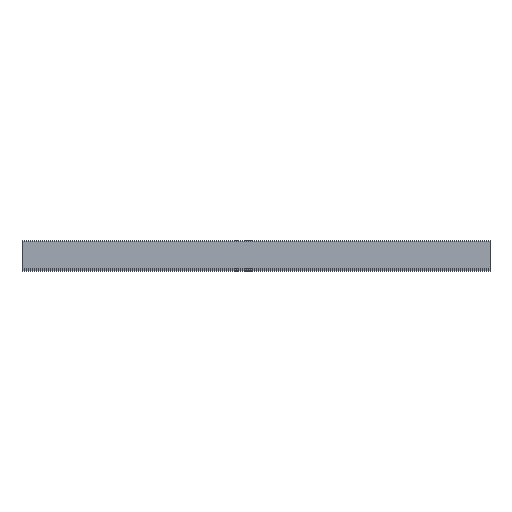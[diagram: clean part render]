
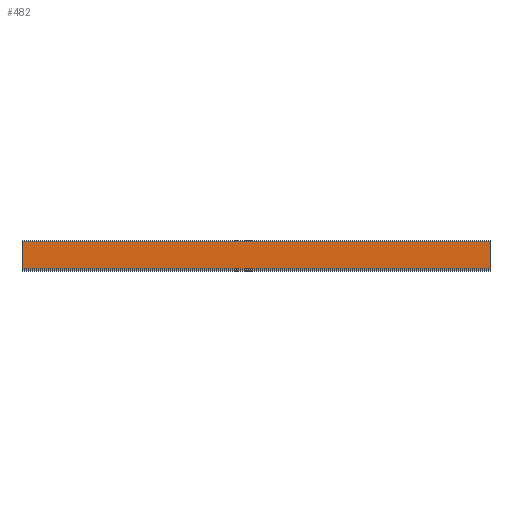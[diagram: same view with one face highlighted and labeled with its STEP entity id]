
A CAD part, top view. The second image highlights one B-rep face of the part: STEP entity #482.
In plain terms, the highlighted planar face has unit normal (0, 0, 1).
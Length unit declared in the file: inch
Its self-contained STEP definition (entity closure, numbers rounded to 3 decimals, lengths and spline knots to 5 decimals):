
#18=DIRECTION('',(0.,1.,0.));
#19=VECTOR('',#18,2.867);
#20=CARTESIAN_POINT('',(48.,0.133,0.118));
#21=LINE('',#20,#19);
#116=DIRECTION('',(0.,1.,0.));
#117=VECTOR('',#116,2.867);
#118=CARTESIAN_POINT('',(0.,0.133,0.118));
#119=LINE('',#118,#117);
#129=DIRECTION('',(-1.,0.,0.));
#130=VECTOR('',#129,48.);
#131=CARTESIAN_POINT('',(48.,3.,0.118));
#132=LINE('',#131,#130);
#261=DIRECTION('',(1.,0.,0.));
#262=VECTOR('',#261,48.);
#263=CARTESIAN_POINT('',(0.,0.133,0.118));
#264=LINE('',#263,#262);
#298=CARTESIAN_POINT('',(48.,0.133,0.118));
#299=CARTESIAN_POINT('',(48.,3.,0.118));
#300=VERTEX_POINT('',#298);
#301=VERTEX_POINT('',#299);
#338=CARTESIAN_POINT('',(0.,0.133,0.118));
#339=CARTESIAN_POINT('',(0.,3.,0.118));
#340=VERTEX_POINT('',#338);
#341=VERTEX_POINT('',#339);
#469=CARTESIAN_POINT('',(36.,0.118,0.118));
#470=DIRECTION('',(0.,0.,-1.));
#471=DIRECTION('',(0.,1.,0.));
#472=AXIS2_PLACEMENT_3D('',#469,#470,#471);
#473=PLANE('',#472);
#474=ORIENTED_EDGE('',*,*,#402,.T.);
#476=ORIENTED_EDGE('',*,*,#475,.F.);
#477=ORIENTED_EDGE('',*,*,#428,.F.);
#479=ORIENTED_EDGE('',*,*,#478,.F.);
#480=EDGE_LOOP('',(#474,#476,#477,#479));
#481=FACE_OUTER_BOUND('',#480,.F.);
#402=EDGE_CURVE('',#340,#341,#119,.T.);
#428=EDGE_CURVE('',#300,#301,#21,.T.);
#475=EDGE_CURVE('',#301,#341,#132,.T.);
#478=EDGE_CURVE('',#340,#300,#264,.T.);
#482=ADVANCED_FACE('',(#481),#473,.F.);
